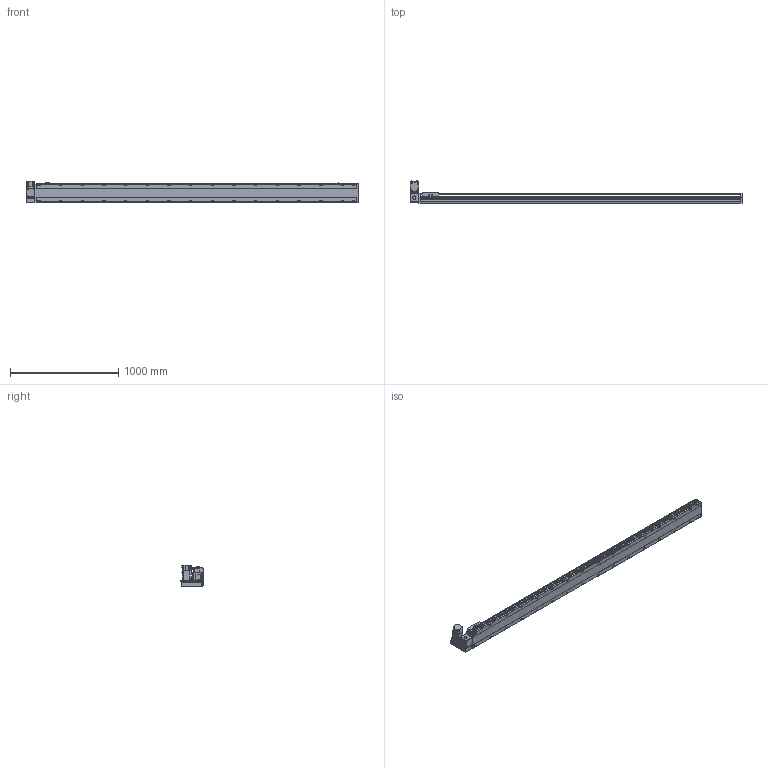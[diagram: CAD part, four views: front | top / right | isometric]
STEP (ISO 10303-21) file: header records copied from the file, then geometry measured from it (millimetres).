
FILE_DESCRIPTION(/* description */ ('STEP AP214'),/* implementation_level */ '2;1');
FILE_NAME(/* name */ 'PBS170-P40-S2700-LU-T75-C1-N(0)',/* time_stamp */ '2022-06-07T10:17:40+02:00',/* author */ ('License CC BY-ND 4.0'),/* organization */ ('CADENAS'),/* preprocessor_version */ 'ST-DEVELOPER v18.102',/* originating_system */ 'PARTsolutions',/* authorisation */ ' ');
FILE_SCHEMA (('INTEGRATED_CNC_SCHEMA','AUTOMOTIVE_DESIGN {1 0 10303 214 3 1 1}'));
Length unit declared in the file: millimetre
Products named in the file (7): PBS170-P40-S2700-LU-T75-C1-N(0); PBS170_sensor; PBS170_plant; PBS170_sliser; T75-p1; PBS170T-LU_motors; PBS170-S2700()_body
Assembly tree (8 placements, depth 2):
  PBS170-P40-S2700-LU-T75-C1-N(0)
    PBS170_sensor  x3
    PBS170_plant
    PBS170_sliser
    T75-p1
    PBS170T-LU_motors
    PBS170-S2700()_body
Bounding box: 3063 x 206 x 197.3 mm (x, y, z)
Volume: 23102352 mm3; surface area: 2902026.4 mm2
Topology: 8 solids, 8 shells, 1210 faces, 3195 edges, 2082 vertices
Faces by surface type: plane 735, cylinder 403, cone 62, sphere 8, torus 2
Full cylindrical faces by diameter (mm): 3.242 x4, 4 x2, 4.4 x4, 4.5 x6, 4.917 x4, 6 x9, 6.647 x40, 7 x2, 7.5 x4, 8 x8, 8.5 x32, 10 x4, 10.5 x32, 11 x2, 30 x2, 40 x1, 70 x1
Entity records: 34782 total; most frequent: CARTESIAN_POINT 6609, DIRECTION 5860, ORIENTED_EDGE 5508, EDGE_CURVE 2754, AXIS2_PLACEMENT_3D 2077, VERTEX_POINT 1922, LINE 1706, VECTOR 1706
